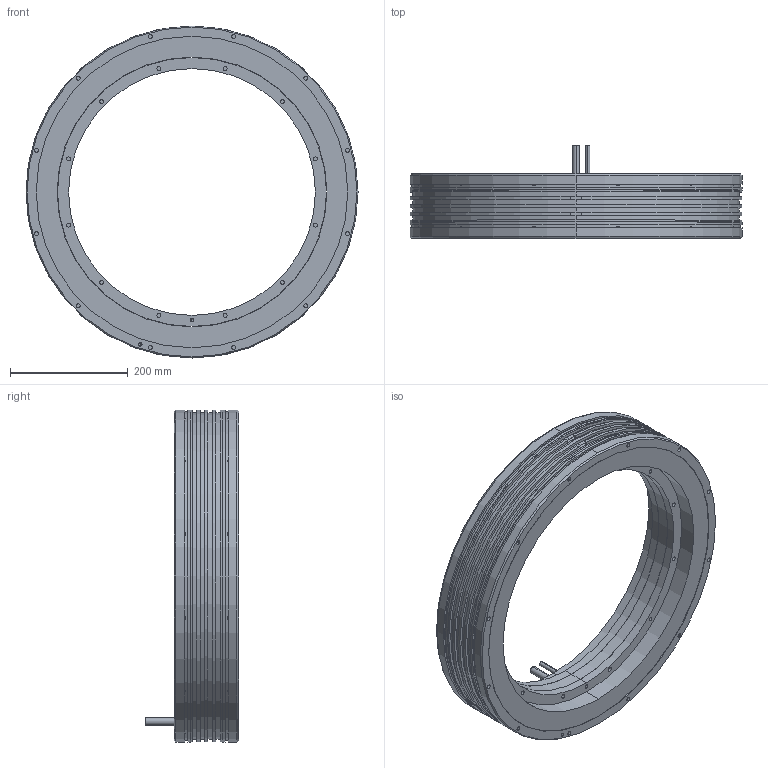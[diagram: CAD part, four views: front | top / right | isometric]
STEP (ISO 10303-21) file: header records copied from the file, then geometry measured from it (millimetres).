
FILE_DESCRIPTION (( 'STEP AP203' ), '1' );
FILE_NAME ('TM-2-G5.STEP', '2021-07-06T08:44:25', ( '' ), ( '' ), 'SwSTEP 2.0', 'SolidWorks 2015', '' );
FILE_SCHEMA (( 'CONFIG_CONTROL_DESIGN' ));
Length unit declared in the file: millimetre
Products named in the file (3): TM-2-GX_stator_TM-2-G5_stator; TM-2-G5; TM-2-GX_rotor_TM-2-G5_rotor
Assembly tree (2 placements, depth 2):
  TM-2-G5
    TM-2-GX_stator_TM-2-G5_stator
    TM-2-GX_rotor_TM-2-G5_rotor
Bounding box: 565 x 159 x 565 mm (x, y, z)
Volume: 10204746.3 mm3; surface area: 826059.3 mm2
Topology: 2 solids, 2 shells, 246 faces, 514 edges, 328 vertices
Faces by surface type: cylinder 151, plane 79, cone 16
Entity records: 6925 total; most frequent: DIRECTION 1314, CARTESIAN_POINT 1085, ORIENTED_EDGE 1012, AXIS2_PLACEMENT_3D 557, EDGE_CURVE 506, VERTEX_POINT 328, EDGE_LOOP 314, CIRCLE 306
